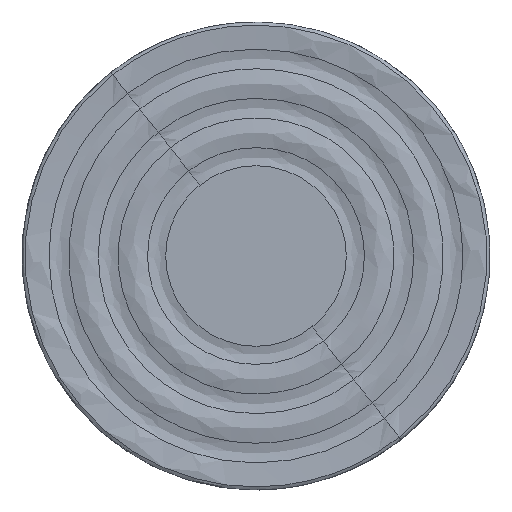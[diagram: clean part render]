
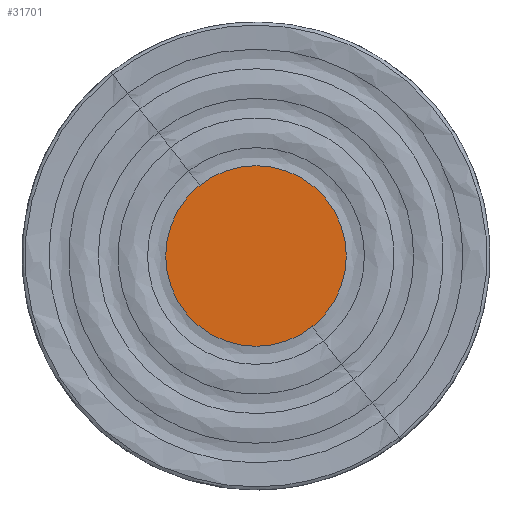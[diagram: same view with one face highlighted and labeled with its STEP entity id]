
A CAD part, left-side view. The second image highlights one B-rep face of the part: STEP entity #31701.
In plain terms, the highlighted planar face has unit normal (-1, 0, 0).
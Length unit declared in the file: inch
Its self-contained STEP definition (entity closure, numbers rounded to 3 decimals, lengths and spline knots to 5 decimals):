
#754 = FACE_OUTER_BOUND ( 'NONE', #28326, .T. ) ;
#5093 = CIRCLE ( 'NONE', #15702, 2.165 ) ;
#10617 = EDGE_CURVE ( 'NONE', #55704, #34319, #5093, .T. ) ;
#11044 = DIRECTION ( 'NONE',  ( 1., 0., 0. ) ) ;
#12584 = PLANE ( 'NONE',  #41690 ) ;
#14980 = DIRECTION ( 'NONE',  ( 1., 0., 0. ) ) ;
#15702 = AXIS2_PLACEMENT_3D ( 'NONE', #25902, #14980, #55436 ) ;
#18375 = CARTESIAN_POINT ( 'NONE',  ( -3.1485, 0.11715, 4.17229 ) ) ;
#22854 = DIRECTION ( 'NONE',  ( 0., 0., -1. ) ) ;
#23515 = DIRECTION ( 'NONE',  ( 1., 0., 0. ) ) ;
#24738 = AXIS2_PLACEMENT_3D ( 'NONE', #63984, #23515, #48403 ) ;
#25902 = CARTESIAN_POINT ( 'NONE',  ( -3.1485, 0.11715, 6.33729 ) ) ;
#28326 = EDGE_LOOP ( 'NONE', ( #40362, #42220 ) ) ;
#31701 = ADVANCED_FACE ( 'NONE', ( #754 ), #12584, .F. ) ;
#34319 = VERTEX_POINT ( 'NONE', #58993 ) ;
#37445 = EDGE_CURVE ( 'NONE', #34319, #55704, #53348, .T. ) ;
#38463 = CARTESIAN_POINT ( 'NONE',  ( -3.1485, 0.11715, 6.33729 ) ) ;
#40362 = ORIENTED_EDGE ( 'NONE', *, *, #10617, .F. ) ;
#41690 = AXIS2_PLACEMENT_3D ( 'NONE', #38463, #11044, #22854 ) ;
#42220 = ORIENTED_EDGE ( 'NONE', *, *, #37445, .F. ) ;
#48403 = DIRECTION ( 'NONE',  ( 0., 0., -1. ) ) ;
#53348 = CIRCLE ( 'NONE', #24738, 2.165 ) ;
#55436 = DIRECTION ( 'NONE',  ( 0., 0., -1. ) ) ;
#55704 = VERTEX_POINT ( 'NONE', #18375 ) ;
#58993 = CARTESIAN_POINT ( 'NONE',  ( -3.1485, 0.11715, 8.50229 ) ) ;
#63984 = CARTESIAN_POINT ( 'NONE',  ( -3.1485, 0.11715, 6.33729 ) ) ;
